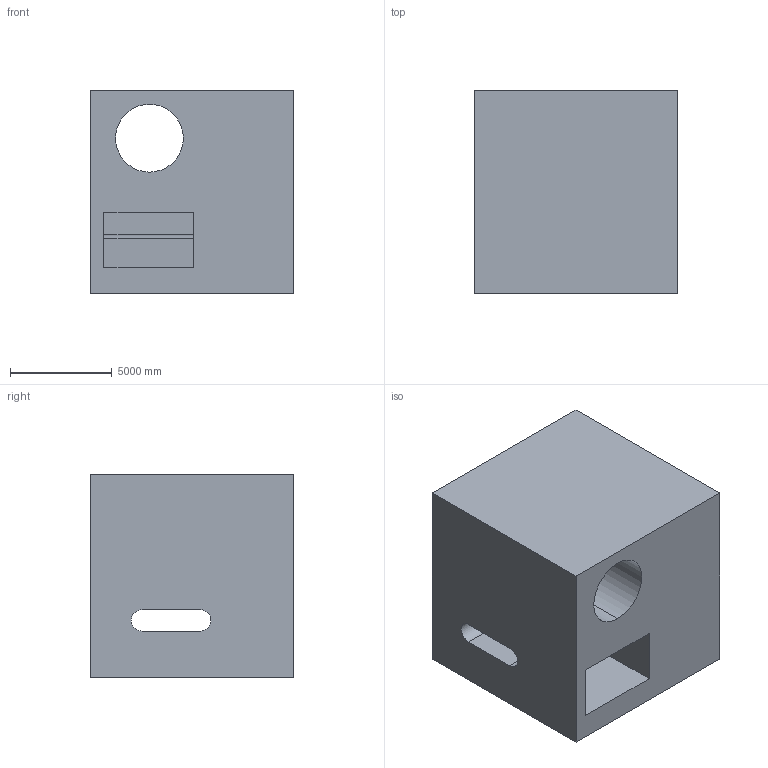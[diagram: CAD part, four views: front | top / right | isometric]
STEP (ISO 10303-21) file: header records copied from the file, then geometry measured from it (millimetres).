
FILE_DESCRIPTION (( 'STEP AP203' ), '1' );
FILE_NAME ('1226.STEP', '2022-08-18T13:16:45', ( 'user' ), ( '' ), 'SwSTEP 2.0', 'SolidWorks 2021', '' );
FILE_SCHEMA (( 'CONFIG_CONTROL_DESIGN' ));
Length unit declared in the file: centimetre
Products named in the file (1): 1226
Bounding box: 10000 x 10000 x 10000 mm (x, y, z)
Volume: 824324012375.6 mm3; surface area: 826755309.5 mm2
Topology: 1 solids, 1 shells, 18 faces, 48 edges, 32 vertices
Faces by surface type: plane 14, cylinder 4
Entity records: 651 total; most frequent: CARTESIAN_POINT 99, ORIENTED_EDGE 96, DIRECTION 96, EDGE_CURVE 48, LINE 38, VECTOR 38, VERTEX_POINT 32, AXIS2_PLACEMENT_3D 29
